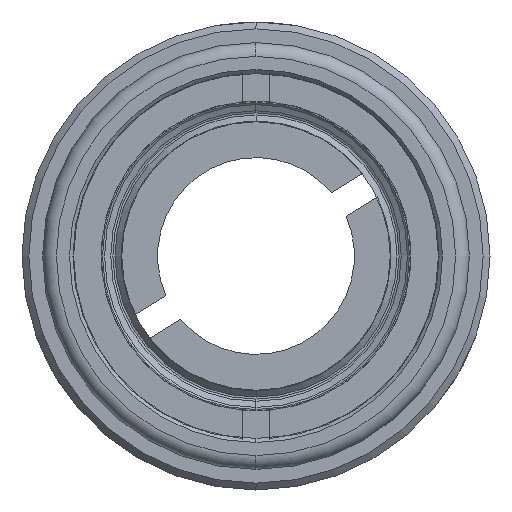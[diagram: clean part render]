
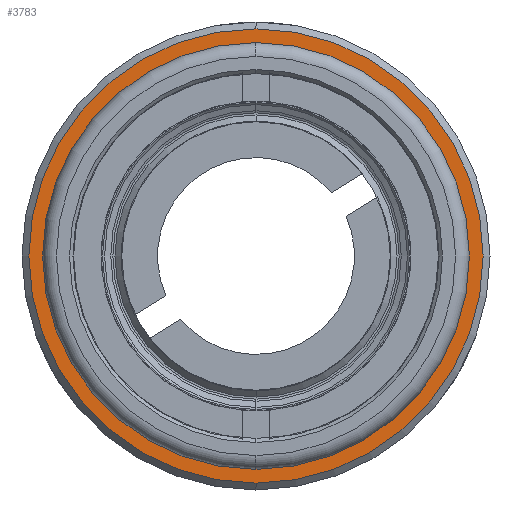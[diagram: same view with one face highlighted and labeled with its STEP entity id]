
A CAD part, left-side view. The second image highlights one B-rep face of the part: STEP entity #3783.
In plain terms, the highlighted planar face has unit normal (-1, 0, 0).
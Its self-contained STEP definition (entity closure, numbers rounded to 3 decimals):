
#313 = DIRECTION ( 'NONE',  ( 0., 0., -1. ) ) ;
#322 = CARTESIAN_POINT ( 'NONE',  ( 31.985, 9.306, 8.806 ) ) ;
#325 = CARTESIAN_POINT ( 'NONE',  ( 31.985, -11.683, -8.806 ) ) ;
#328 = CARTESIAN_POINT ( 'NONE',  ( 31.985, -1.189, 0. ) ) ;
#341 = DIRECTION ( 'NONE',  ( -1., 0., 0. ) ) ;
#342 = CARTESIAN_POINT ( 'NONE',  ( 31.985, -1.189, 0. ) ) ;
#343 = DIRECTION ( 'NONE',  ( -1., 0., 0. ) ) ;
#344 = DIRECTION ( 'NONE',  ( 1., 0., 0. ) ) ;
#349 = DIRECTION ( 'NONE',  ( 0., 0., 1. ) ) ;
#350 = DIRECTION ( 'NONE',  ( 0., 0., 1. ) ) ;
#351 = DIRECTION ( 'NONE',  ( -1., 0., 0. ) ) ;
#355 = DIRECTION ( 'NONE',  ( 0., 0., 1. ) ) ;
#356 = DIRECTION ( 'NONE',  ( -1., 0., 0. ) ) ;
#362 = CARTESIAN_POINT ( 'NONE',  ( 31.985, -1.189, 0. ) ) ;
#379 = DIRECTION ( 'NONE',  ( 0., 0., 1. ) ) ;
#417 = CARTESIAN_POINT ( 'NONE',  ( 31.985, -1.189, 0. ) ) ;
#430 = DIRECTION ( 'NONE',  ( -1., 0., 0. ) ) ;
#440 = DIRECTION ( 'NONE',  ( 0., 0., 1. ) ) ;
#633 = DIRECTION ( 'NONE',  ( -1., 0., 0. ) ) ;
#637 = CARTESIAN_POINT ( 'NONE',  ( 31.985, -1.189, 0. ) ) ;
#640 = DIRECTION ( 'NONE',  ( 0., 0., -1. ) ) ;
#657 = CARTESIAN_POINT ( 'NONE',  ( 31.985, -1.189, 0. ) ) ;
#659 = DIRECTION ( 'NONE',  ( 1., 0., 0. ) ) ;
#662 = DIRECTION ( 'NONE',  ( 0., 0., 1. ) ) ;
#672 = CARTESIAN_POINT ( 'NONE',  ( 31.985, -11.683, 8.806 ) ) ;
#673 = CARTESIAN_POINT ( 'NONE',  ( 31.985, 9.306, -8.806 ) ) ;
#675 = DIRECTION ( 'NONE',  ( 1., 0., 0. ) ) ;
#676 = DIRECTION ( 'NONE',  ( 0., 0., -1. ) ) ;
#677 = DIRECTION ( 'NONE',  ( -1., 0., 0. ) ) ;
#684 = DIRECTION ( 'NONE',  ( 0., 0., 1. ) ) ;
#685 = CARTESIAN_POINT ( 'NONE',  ( 31.985, -1.189, 0. ) ) ;
#690 = DIRECTION ( 'NONE',  ( -1., 0., 0. ) ) ;
#701 = DIRECTION ( 'NONE',  ( 0., 0., 1. ) ) ;
#720 = DIRECTION ( 'NONE',  ( -1., 0., 0. ) ) ;
#724 = DIRECTION ( 'NONE',  ( 0., 0., 1. ) ) ;
#727 = CARTESIAN_POINT ( 'NONE',  ( 31.985, 12.611, 0. ) ) ;
#951 = AXIS2_PLACEMENT_3D ( 'NONE', #417, #430, #440 ) ;
#963 = AXIS2_PLACEMENT_3D ( 'NONE', #657, #659, #640 ) ;
#969 = AXIS2_PLACEMENT_3D ( 'NONE', #637, #633, #662 ) ;
#982 = AXIS2_PLACEMENT_3D ( 'NONE', #673, #677, #684 ) ;
#984 = AXIS2_PLACEMENT_3D ( 'NONE', #685, #690, #701 ) ;
#986 = AXIS2_PLACEMENT_3D ( 'NONE', #672, #675, #676 ) ;
#999 = AXIS2_PLACEMENT_3D ( 'NONE', #727, #720, #724 ) ;
#1136 = AXIS2_PLACEMENT_3D ( 'NONE', #2313, #2341, #2308 ) ;
#1279 = EDGE_LOOP ( 'NONE', ( #1629, #1623, #1605, #1630, #1616, #1614, #1592, #1598, #1585, #1575 ) ) ;
#1292 = EDGE_LOOP ( 'NONE', ( #1591, #1595 ) ) ;
#1575 = ORIENTED_EDGE ( 'NONE', *, *, #3315, .F. ) ;
#1585 = ORIENTED_EDGE ( 'NONE', *, *, #3341, .F. ) ;
#1591 = ORIENTED_EDGE ( 'NONE', *, *, #3264, .T. ) ;
#1592 = ORIENTED_EDGE ( 'NONE', *, *, #3333, .F. ) ;
#1595 = ORIENTED_EDGE ( 'NONE', *, *, #3245, .T. ) ;
#1598 = ORIENTED_EDGE ( 'NONE', *, *, #3240, .F. ) ;
#1605 = ORIENTED_EDGE ( 'NONE', *, *, #3339, .T. ) ;
#1614 = ORIENTED_EDGE ( 'NONE', *, *, #3334, .F. ) ;
#1616 = ORIENTED_EDGE ( 'NONE', *, *, #3237, .F. ) ;
#1623 = ORIENTED_EDGE ( 'NONE', *, *, #3323, .T. ) ;
#1629 = ORIENTED_EDGE ( 'NONE', *, *, #3239, .T. ) ;
#1630 = ORIENTED_EDGE ( 'NONE', *, *, #3251, .F. ) ;
#2020 = CIRCLE ( 'NONE', #3578, 14.5 ) ;
#2031 = CIRCLE ( 'NONE', #951, 16.5 ) ;
#2037 = CIRCLE ( 'NONE', #3580, 14.5 ) ;
#2053 = CIRCLE ( 'NONE', #3553, 1.5 ) ;
#2056 = CIRCLE ( 'NONE', #3577, 1.5 ) ;
#2063 = CIRCLE ( 'NONE', #3554, 16.5 ) ;
#2100 = CIRCLE ( 'NONE', #969, 14.5 ) ;
#2121 = CIRCLE ( 'NONE', #963, 15.2 ) ;
#2142 = CIRCLE ( 'NONE', #984, 15.2 ) ;
#2164 = CIRCLE ( 'NONE', #982, 1.5 ) ;
#2166 = CIRCLE ( 'NONE', #999, 1.5 ) ;
#2173 = CIRCLE ( 'NONE', #986, 1.5 ) ;
#2308 = DIRECTION ( 'NONE',  ( 0., 0., -1. ) ) ;
#2313 = CARTESIAN_POINT ( 'NONE',  ( 31.985, 13.311, 0. ) ) ;
#2321 = PLANE ( 'NONE',  #1136 ) ;
#2341 = DIRECTION ( 'NONE',  ( 1., 0., 0. ) ) ;
#2723 = CARTESIAN_POINT ( 'NONE',  ( 31.985, 10.455, 9.77 ) ) ;
#2727 = CARTESIAN_POINT ( 'NONE',  ( 31.985, 10.712, -8.284 ) ) ;
#2729 = CARTESIAN_POINT ( 'NONE',  ( 31.985, -13.089, -8.284 ) ) ;
#2753 = CARTESIAN_POINT ( 'NONE',  ( 31.985, -1.189, 16.5 ) ) ;
#2760 = CARTESIAN_POINT ( 'NONE',  ( 31.985, -13.089, 8.284 ) ) ;
#2767 = CARTESIAN_POINT ( 'NONE',  ( 31.985, 13.248, -1.358 ) ) ;
#2771 = CARTESIAN_POINT ( 'NONE',  ( 31.985, -1.189, -16.5 ) ) ;
#2772 = CARTESIAN_POINT ( 'NONE',  ( 31.985, 10.455, -9.77 ) ) ;
#2773 = CARTESIAN_POINT ( 'NONE',  ( 31.985, -12.832, -9.77 ) ) ;
#2774 = CARTESIAN_POINT ( 'NONE',  ( 31.985, 13.248, 1.358 ) ) ;
#2814 = CARTESIAN_POINT ( 'NONE',  ( 31.985, 10.712, 8.284 ) ) ;
#2815 = CARTESIAN_POINT ( 'NONE',  ( 31.985, -12.832, 9.77 ) ) ;
#3044 = VERTEX_POINT ( 'NONE', #2723 ) ;
#3048 = VERTEX_POINT ( 'NONE', #2727 ) ;
#3053 = VERTEX_POINT ( 'NONE', #2729 ) ;
#3063 = VERTEX_POINT ( 'NONE', #2771 ) ;
#3064 = VERTEX_POINT ( 'NONE', #2760 ) ;
#3071 = VERTEX_POINT ( 'NONE', #2753 ) ;
#3072 = VERTEX_POINT ( 'NONE', #2774 ) ;
#3075 = VERTEX_POINT ( 'NONE', #2772 ) ;
#3081 = VERTEX_POINT ( 'NONE', #2773 ) ;
#3088 = VERTEX_POINT ( 'NONE', #2767 ) ;
#3123 = VERTEX_POINT ( 'NONE', #2814 ) ;
#3140 = VERTEX_POINT ( 'NONE', #2815 ) ;
#3237 = EDGE_CURVE ( 'NONE', #3081, #3053, #2053, .T. ) ;
#3239 = EDGE_CURVE ( 'NONE', #3123, #3044, #2056, .T. ) ;
#3240 = EDGE_CURVE ( 'NONE', #3088, #3048, #2020, .T. ) ;
#3245 = EDGE_CURVE ( 'NONE', #3071, #3063, #2063, .T. ) ;
#3251 = EDGE_CURVE ( 'NONE', #3053, #3064, #2037, .T. ) ;
#3264 = EDGE_CURVE ( 'NONE', #3063, #3071, #2031, .T. ) ;
#3315 = EDGE_CURVE ( 'NONE', #3123, #3072, #2100, .T. ) ;
#3323 = EDGE_CURVE ( 'NONE', #3044, #3140, #2121, .T. ) ;
#3333 = EDGE_CURVE ( 'NONE', #3048, #3075, #2164, .T. ) ;
#3334 = EDGE_CURVE ( 'NONE', #3075, #3081, #2142, .T. ) ;
#3339 = EDGE_CURVE ( 'NONE', #3140, #3064, #2173, .T. ) ;
#3341 = EDGE_CURVE ( 'NONE', #3072, #3088, #2166, .T. ) ;
#3476 = FACE_BOUND ( 'NONE', #1279, .T. ) ;
#3494 = FACE_OUTER_BOUND ( 'NONE', #1292, .T. ) ;
#3553 = AXIS2_PLACEMENT_3D ( 'NONE', #325, #341, #350 ) ;
#3554 = AXIS2_PLACEMENT_3D ( 'NONE', #328, #351, #355 ) ;
#3577 = AXIS2_PLACEMENT_3D ( 'NONE', #322, #344, #313 ) ;
#3578 = AXIS2_PLACEMENT_3D ( 'NONE', #342, #343, #349 ) ;
#3580 = AXIS2_PLACEMENT_3D ( 'NONE', #362, #356, #379 ) ;
#3783 = ADVANCED_FACE ( 'NONE', ( #3494, #3476 ), #2321, .F. ) ;
